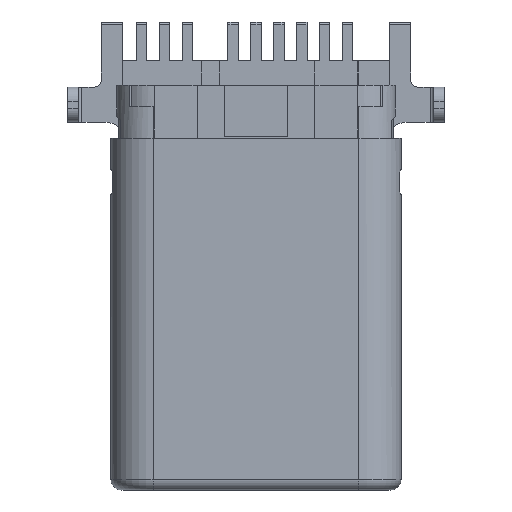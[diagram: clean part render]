
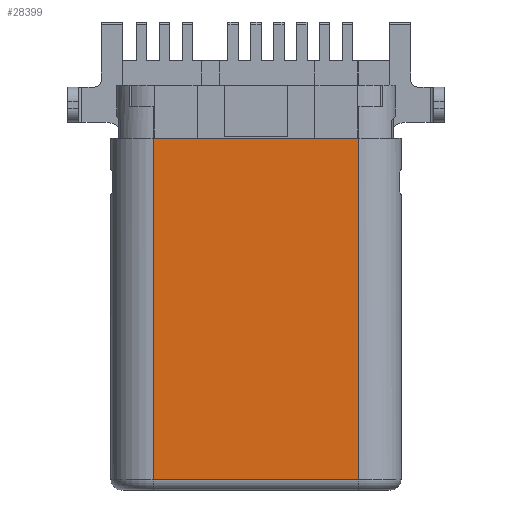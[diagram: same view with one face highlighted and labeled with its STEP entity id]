
A CAD part, front view. The second image highlights one B-rep face of the part: STEP entity #28399.
In plain terms, the highlighted planar face has unit normal (0, -1, 0).
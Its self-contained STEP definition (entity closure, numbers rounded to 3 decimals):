
#27632=DIRECTION('',(0.,0.,-1.));
#27633=VECTOR('',#27632,9.7);
#27634=CARTESIAN_POINT('',(-2.925,-1.19,0.3));
#27635=LINE('',#27634,#27633);
#27684=DIRECTION('',(1.,0.,0.));
#27685=VECTOR('',#27684,5.85);
#27686=CARTESIAN_POINT('',(-2.925,-1.19,0.3));
#27687=LINE('',#27686,#27685);
#27692=DIRECTION('',(0.,0.,1.));
#27693=VECTOR('',#27692,9.7);
#27694=CARTESIAN_POINT('',(2.925,-1.19,-9.4));
#27695=LINE('',#27694,#27693);
#27795=DIRECTION('',(1.,0.,0.));
#27796=VECTOR('',#27795,5.85);
#27797=CARTESIAN_POINT('',(-2.925,-1.19,-9.4));
#27798=LINE('',#27797,#27796);
#28174=CARTESIAN_POINT('',(-2.925,-1.19,0.3));
#28176=VERTEX_POINT('',#28174);
#28182=CARTESIAN_POINT('',(2.925,-1.19,0.3));
#28183=VERTEX_POINT('',#28182);
#28190=CARTESIAN_POINT('',(-2.925,-1.19,-9.4));
#28191=VERTEX_POINT('',#28190);
#28209=CARTESIAN_POINT('',(2.925,-1.19,-9.4));
#28210=VERTEX_POINT('',#28209);
#28386=CARTESIAN_POINT('',(0.,-1.19,-4.55));
#28387=DIRECTION('',(0.,1.,0.));
#28388=DIRECTION('',(-1.,0.,0.));
#28389=AXIS2_PLACEMENT_3D('',#28386,#28387,#28388);
#28390=PLANE('',#28389);
#28391=ORIENTED_EDGE('',*,*,#28335,.T.);
#28393=ORIENTED_EDGE('',*,*,#28392,.F.);
#28395=ORIENTED_EDGE('',*,*,#28394,.F.);
#28396=ORIENTED_EDGE('',*,*,#28357,.F.);
#28397=EDGE_LOOP('',(#28391,#28393,#28395,#28396));
#28398=FACE_OUTER_BOUND('',#28397,.F.);
#28399=ADVANCED_FACE('',(#28398),#28390,.F.);
#28335=EDGE_CURVE('',#28176,#28183,#27687,.T.);
#28357=EDGE_CURVE('',#28176,#28191,#27635,.T.);
#28392=EDGE_CURVE('',#28210,#28183,#27695,.T.);
#28394=EDGE_CURVE('',#28191,#28210,#27798,.T.);
